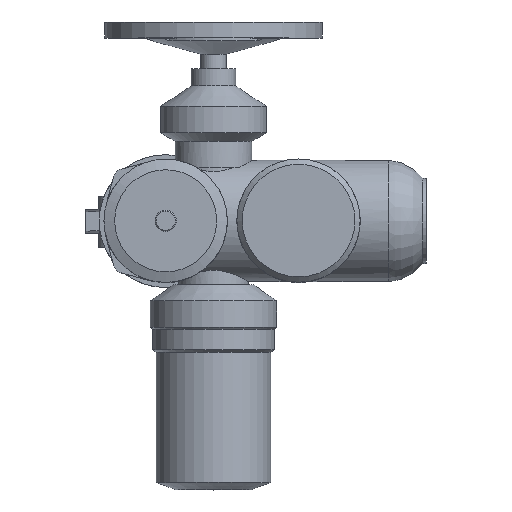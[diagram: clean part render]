
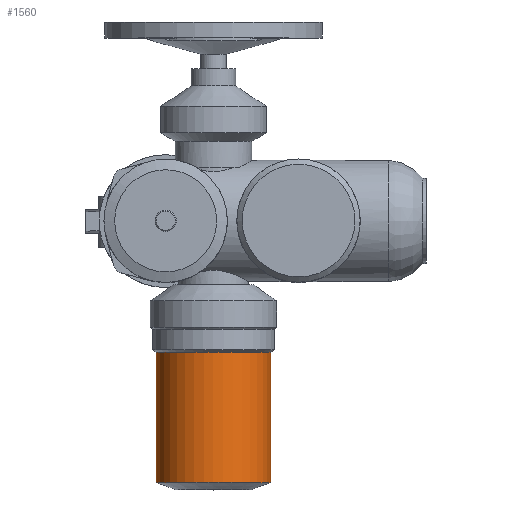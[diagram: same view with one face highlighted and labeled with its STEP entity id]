
A CAD part, top view. The second image highlights one B-rep face of the part: STEP entity #1560.
In plain terms, the highlighted cylindrical face has radius 54 mm (diameter 108 mm), a full revolution.
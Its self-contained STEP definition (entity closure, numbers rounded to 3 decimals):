
#1560=ADVANCED_FACE('',(#3520,#3522),#3524,.T.);
#3520=FACE_OUTER_BOUND('',#3521,.T.);
#3521=EDGE_LOOP('',(#4924));
#3522=FACE_OUTER_BOUND('',#3523,.T.);
#3523=EDGE_LOOP('',(#4925));
#3524=CYLINDRICAL_SURFACE('',#3525,54.);
#3525=AXIS2_PLACEMENT_3D('',#3526,#3527,#3528);
#3526=CARTESIAN_POINT('',(45.,-246.085,373.));
#3527=DIRECTION('',(0.,1.,0.));
#3528=DIRECTION('',(0.,0.,1.));
#4924=ORIENTED_EDGE('',*,*,#5669,.F.);
#4925=ORIENTED_EDGE('',*,*,#5747,.T.);
#5669=EDGE_CURVE('',#6524,#6524,#6525,.T.);
#5747=EDGE_CURVE('',#6648,#6648,#6649,.T.);
#6524=VERTEX_POINT('',#9439);
#6525=CIRCLE('',#9440,54.);
#6648=VERTEX_POINT('',#9735);
#6649=CIRCLE('',#9736,54.);
#9439=CARTESIAN_POINT('',(45.,-123.505,427.));
#9440=AXIS2_PLACEMENT_3D('',#9441,#9442,#9443);
#9441=CARTESIAN_POINT('',(45.,-123.505,373.));
#9442=DIRECTION('',(0.,1.,0.));
#9443=DIRECTION('',(0.,0.,1.));
#9735=CARTESIAN_POINT('',(45.,-246.085,427.));
#9736=AXIS2_PLACEMENT_3D('',#9737,#9738,#9739);
#9737=CARTESIAN_POINT('',(45.,-246.085,373.));
#9738=DIRECTION('',(0.,1.,0.));
#9739=DIRECTION('',(0.,0.,1.));
